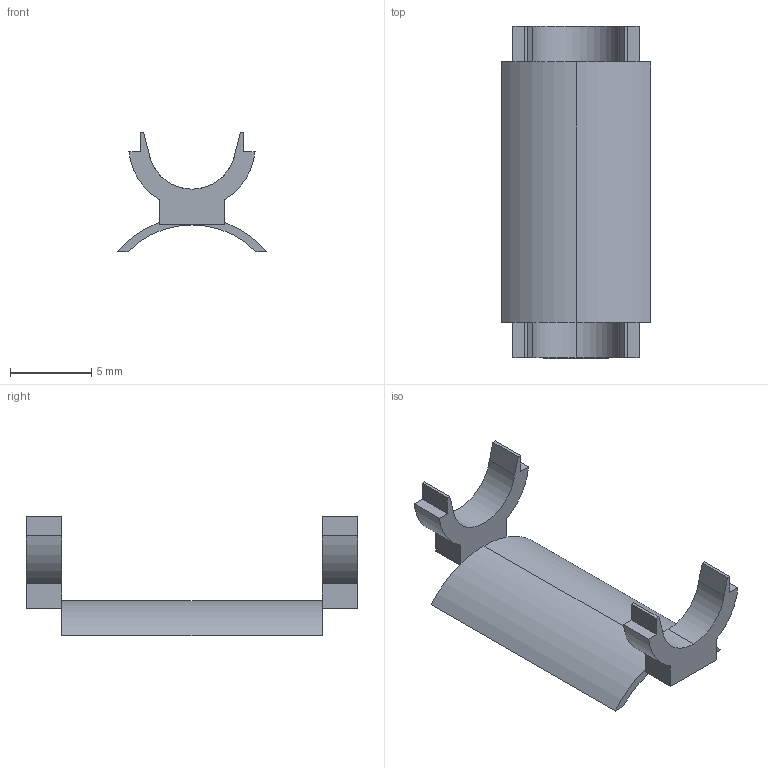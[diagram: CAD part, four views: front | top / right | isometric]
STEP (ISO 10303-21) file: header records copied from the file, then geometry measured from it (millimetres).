
FILE_DESCRIPTION (( 'STEP AP203' ), '1' );
FILE_NAME ('DHLF06.STEP', '2018-08-31T06:02:50', ( '' ), ( '' ), 'SwSTEP 2.0', 'SolidWorks 2012', '' );
FILE_SCHEMA (( 'CONFIG_CONTROL_DESIGN' ));
Length unit declared in the file: millimetre
Products named in the file (1): DHLF06
Bounding box: 9.2 x 20.4 x 7.35 mm (x, y, z)
Volume: 151.9 mm3; surface area: 527.1 mm2
Topology: 1 solids, 1 shells, 43 faces, 115 edges, 74 vertices
Faces by surface type: plane 32, cylinder 11
Entity records: 1408 total; most frequent: CARTESIAN_POINT 233, ORIENTED_EDGE 230, DIRECTION 229, EDGE_CURVE 115, VECTOR 89, LINE 89, VERTEX_POINT 74, AXIS2_PLACEMENT_3D 70
